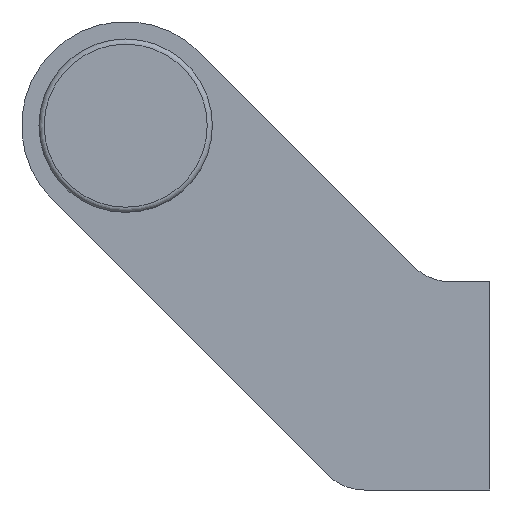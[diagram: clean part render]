
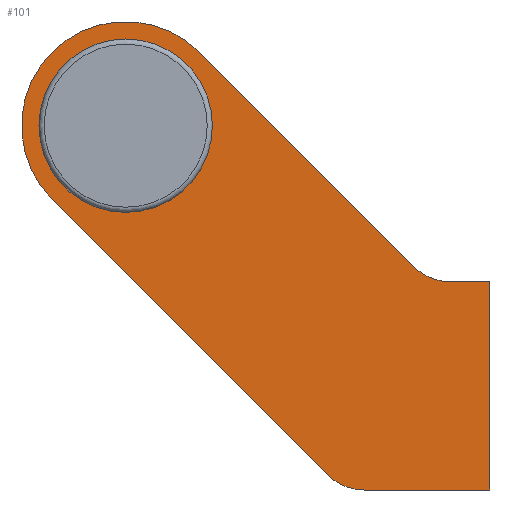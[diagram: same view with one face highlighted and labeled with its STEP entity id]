
A CAD part, left-side view. The second image highlights one B-rep face of the part: STEP entity #101.
In plain terms, the highlighted planar face has unit normal (-1, 0, 0).
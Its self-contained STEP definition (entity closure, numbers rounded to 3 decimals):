
#101 = ADVANCED_FACE( '', ( #171, #172 ), #173, .F. );
#171 = FACE_BOUND( '', #254, .T. );
#172 = FACE_OUTER_BOUND( '', #255, .T. );
#173 = PLANE( '', #256 );
#254 = EDGE_LOOP( '', ( #458 ) );
#255 = EDGE_LOOP( '', ( #459, #460, #461, #462, #463, #464, #465, #466 ) );
#256 = AXIS2_PLACEMENT_3D( '', #467, #468, #469 );
#458 = ORIENTED_EDGE( '', *, *, #547, .T. );
#459 = ORIENTED_EDGE( '', *, *, #512, .F. );
#460 = ORIENTED_EDGE( '', *, *, #548, .F. );
#461 = ORIENTED_EDGE( '', *, *, #551, .F. );
#462 = ORIENTED_EDGE( '', *, *, #501, .F. );
#463 = ORIENTED_EDGE( '', *, *, #553, .F. );
#464 = ORIENTED_EDGE( '', *, *, #556, .T. );
#465 = ORIENTED_EDGE( '', *, *, #509, .F. );
#466 = ORIENTED_EDGE( '', *, *, #505, .F. );
#467 = CARTESIAN_POINT( '', ( -156., 42., 30. ) );
#468 = DIRECTION( '', ( 1., 0., 0. ) );
#469 = DIRECTION( '', ( 0., 0., -1. ) );
#501 = EDGE_CURVE( '', #566, #567, #568, .T. );
#505 = EDGE_CURVE( '', #574, #575, #576, .T. );
#509 = EDGE_CURVE( '', #575, #582, #583, .T. );
#512 = EDGE_CURVE( '', #587, #574, #588, .T. );
#547 = EDGE_CURVE( '', #648, #648, #649, .T. );
#548 = EDGE_CURVE( '', #650, #587, #651, .T. );
#551 = EDGE_CURVE( '', #567, #650, #655, .T. );
#553 = EDGE_CURVE( '', #657, #566, #658, .T. );
#556 = EDGE_CURVE( '', #657, #582, #662, .T. );
#566 = VERTEX_POINT( '', #674 );
#567 = VERTEX_POINT( '', #675 );
#568 = LINE( '', #676, #677 );
#574 = VERTEX_POINT( '', #686 );
#575 = VERTEX_POINT( '', #687 );
#576 = CIRCLE( '', #688, 12. );
#582 = VERTEX_POINT( '', #696 );
#583 = LINE( '', #697, #698 );
#587 = VERTEX_POINT( '', #704 );
#588 = LINE( '', #705, #706 );
#648 = VERTEX_POINT( '', #786 );
#649 = CIRCLE( '', #787, 10. );
#650 = VERTEX_POINT( '', #788 );
#651 = CIRCLE( '', #789, 6. );
#655 = LINE( '', #794, #795 );
#657 = VERTEX_POINT( '', #798 );
#658 = LINE( '', #799, #800 );
#662 = CIRCLE( '', #806, 6. );
#674 = CARTESIAN_POINT( '', ( -156., 0., 12. ) );
#675 = CARTESIAN_POINT( '', ( -156., 0., -12. ) );
#676 = CARTESIAN_POINT( '', ( -156., 0., 12. ) );
#677 = VECTOR( '', #819, 1000. );
#686 = CARTESIAN_POINT( '', ( -156., 50.486, 21.515 ) );
#687 = CARTESIAN_POINT( '', ( -156., 33.515, 38.486 ) );
#688 = AXIS2_PLACEMENT_3D( '', #823, #824, #825 );
#696 = CARTESIAN_POINT( '', ( -156., 8.782, 13.757 ) );
#697 = CARTESIAN_POINT( '', ( -156., 33.515, 38.486 ) );
#698 = VECTOR( '', #831, 1000. );
#704 = CARTESIAN_POINT( '', ( -156., 18.733, -10.242 ) );
#705 = CARTESIAN_POINT( '', ( -156., 18.733, -10.242 ) );
#706 = VECTOR( '', #834, 1000. );
#786 = CARTESIAN_POINT( '', ( -156., 42., 20. ) );
#787 = AXIS2_PLACEMENT_3D( '', #897, #898, #899 );
#788 = CARTESIAN_POINT( '', ( -156., 14.49, -12. ) );
#789 = AXIS2_PLACEMENT_3D( '', #900, #901, #902 );
#794 = CARTESIAN_POINT( '', ( -156., 0., -12. ) );
#795 = VECTOR( '', #907, 1000. );
#798 = CARTESIAN_POINT( '', ( -156., 4.54, 12. ) );
#799 = CARTESIAN_POINT( '', ( -156., 4.54, 12. ) );
#800 = VECTOR( '', #909, 1000. );
#806 = AXIS2_PLACEMENT_3D( '', #912, #913, #914 );
#819 = DIRECTION( '', ( 0., 0., -1. ) );
#823 = CARTESIAN_POINT( '', ( -156., 42., 30. ) );
#824 = DIRECTION( '', ( 1., 0., 0. ) );
#825 = DIRECTION( '', ( 0., 0., -1. ) );
#831 = DIRECTION( '', ( 0., -0.707, -0.707 ) );
#834 = DIRECTION( '', ( 0., 0.707, 0.707 ) );
#897 = CARTESIAN_POINT( '', ( -156., 42., 30. ) );
#898 = DIRECTION( '', ( 1., 0., 0. ) );
#899 = DIRECTION( '', ( 0., 0., -1. ) );
#900 = CARTESIAN_POINT( '', ( -156., 14.49, -6. ) );
#901 = DIRECTION( '', ( 1., 0., 0. ) );
#902 = DIRECTION( '', ( 0., 0., -1. ) );
#907 = DIRECTION( '', ( 0., 1., 0. ) );
#909 = DIRECTION( '', ( 0., -1., 0. ) );
#912 = CARTESIAN_POINT( '', ( -156., 4.54, 18. ) );
#913 = DIRECTION( '', ( 1., 0., 0. ) );
#914 = DIRECTION( '', ( 0., 0., -1. ) );
